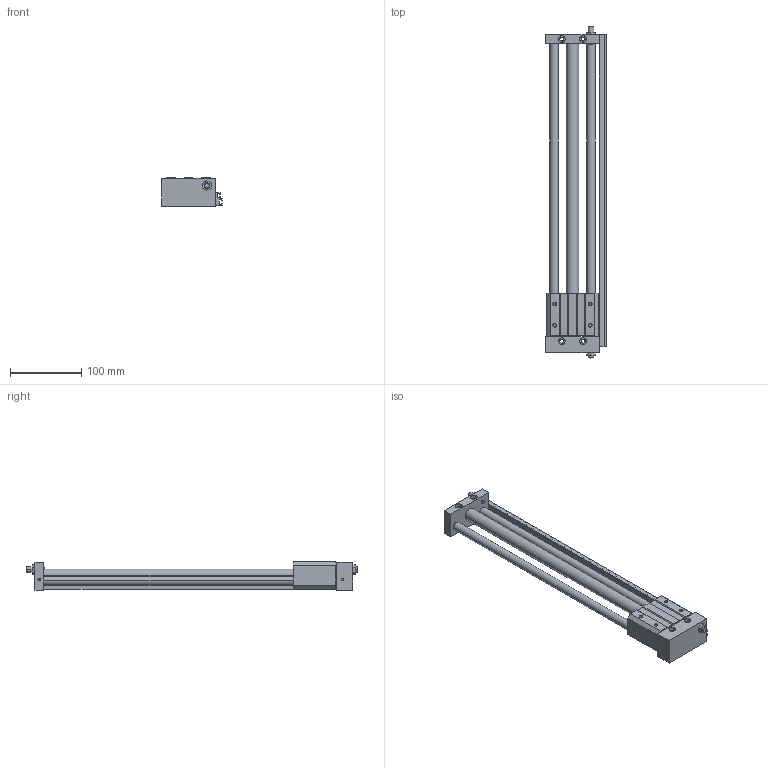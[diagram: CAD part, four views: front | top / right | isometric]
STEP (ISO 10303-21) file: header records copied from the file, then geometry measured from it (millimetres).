
FILE_DESCRIPTION((''),'2;1');
FILE_NAME('C:\Documents and Settings\Administrator\桌面\GYS\GYS15\GYSR15X350.stp','2012-03-05T10:52:26',('Administrator'),(''),'Autodesk Inventor 8','Autodesk Inventor 8','');
FILE_SCHEMA(('AUTOMOTIVE_DESIGN { 1 0 10303 214 1 1 1 1 }'));
Length unit declared in the file: millimetre
Products named in the file (3): GYSR15X350; GYS15X350; GYS15160X350
Assembly tree (2 placements, depth 2):
  GYSR15X350
    GYS15X350
    GYS15160X350
Bounding box: 85 x 467 x 40 mm (x, y, z)
Volume: 465465 mm3; surface area: 121024 mm2
Topology: 2 solids, 2 shells, 201 faces, 494 edges, 320 vertices
Faces by surface type: plane 107, cylinder 60, cone 28, bspline 6
Entity records: 6100 total; most frequent: CARTESIAN_POINT 1094, DIRECTION 1058, ORIENTED_EDGE 988, EDGE_CURVE 494, AXIS2_PLACEMENT_3D 364, VECTOR 330, LINE 330, VERTEX_POINT 320
